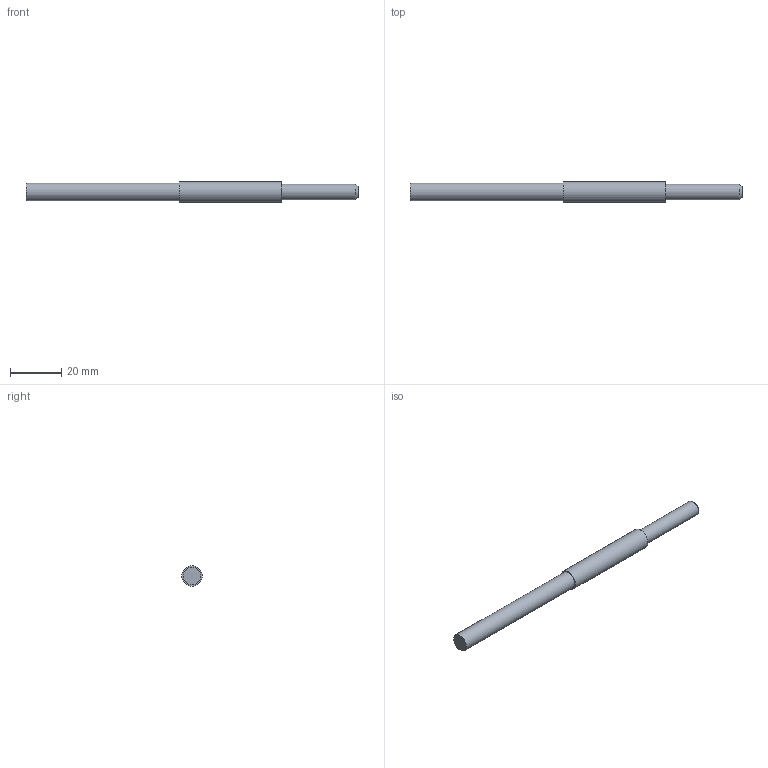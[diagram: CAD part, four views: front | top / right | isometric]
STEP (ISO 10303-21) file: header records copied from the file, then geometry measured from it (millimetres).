
FILE_DESCRIPTION(/* description */ (''),/* implementation_level */ '2;1');
FILE_NAME(/* name */ 'C:\Evgeny\Noga Works\_Noga MT Brush\solidcam\CROSS-HOLES D7 UF2170.stp',/* time_stamp */ '2025-03-23T08:37:00+02:00',/* author */ ('evgeny'),/* organization */ (''),/* preprocessor_version */ 'ST-DEVELOPER v20',/* originating_system */ 'Autodesk Inventor 2022',/* authorisation */ '');
FILE_SCHEMA (('AUTOMOTIVE_DESIGN { 1 0 10303 214 3 1 1 }'));
Length unit declared in the file: millimetre
Products named in the file (1): CROSS-HOLES D7 UF2170
Bounding box: 130 x 8 x 8 mm (x, y, z)
Volume: 5159.5 mm3; surface area: 3055.4 mm2
Topology: 2 solids, 2 shells, 9 faces, 12 edges, 8 vertices
Faces by surface type: plane 5, cylinder 3, cone 1
Full cylindrical faces by diameter (mm): 6 x1, 7 x1, 8 x1
Entity records: 243 total; most frequent: DIRECTION 40, CARTESIAN_POINT 30, ORIENTED_EDGE 24, AXIS2_PLACEMENT_3D 18, EDGE_CURVE 12, EDGE_LOOP 10, FACE_OUTER_BOUND 9, ADVANCED_FACE 9
